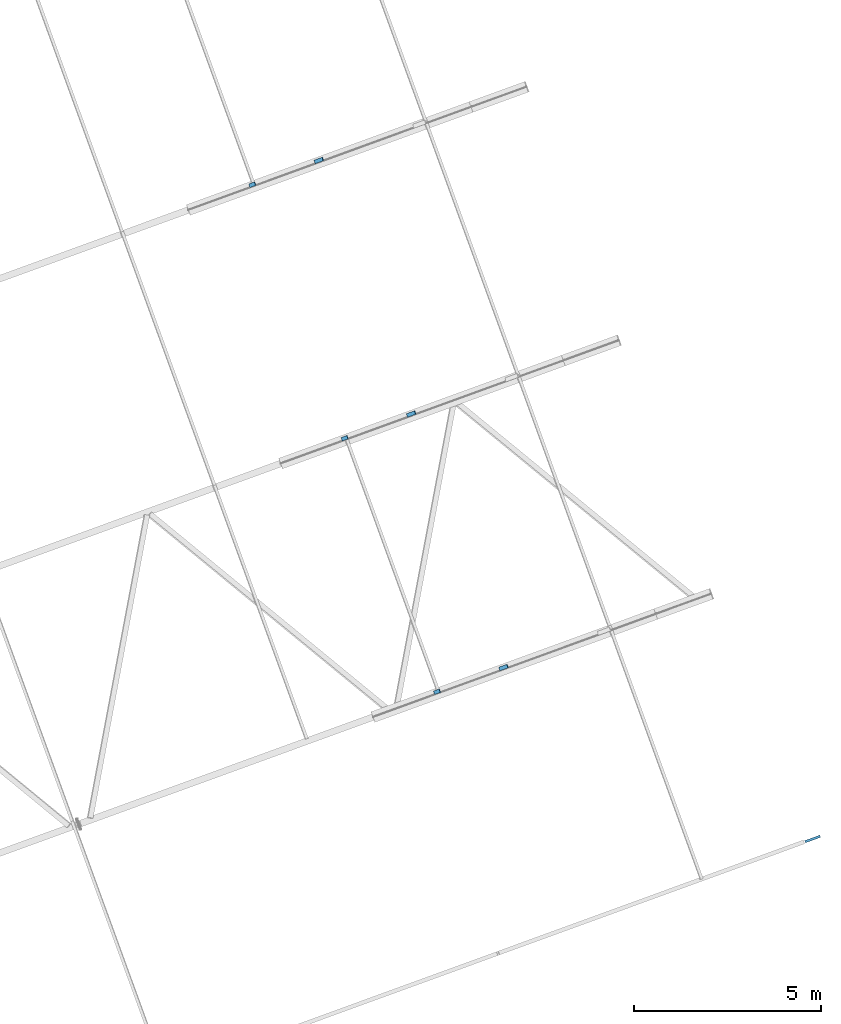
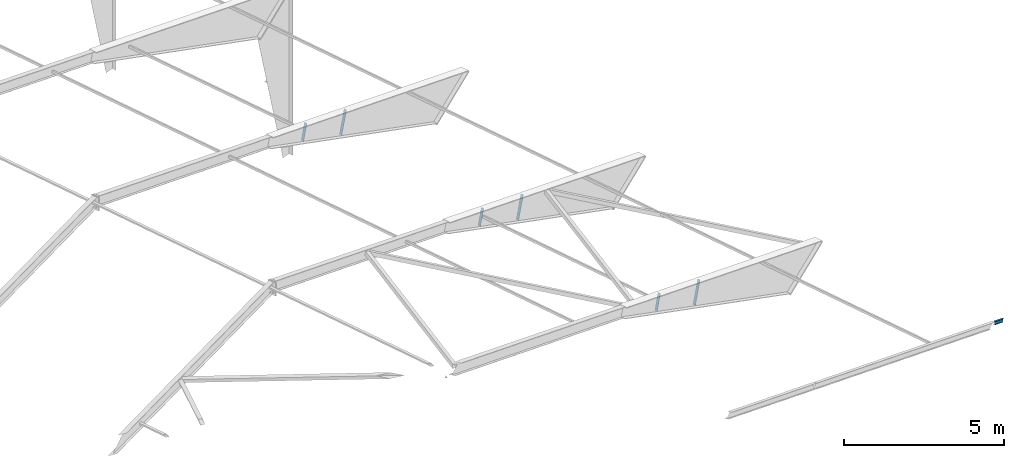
# One storey, part 6 of 17: 6 members, 1 beam, 1 opening, 7 elements without a shape of their own.
"""IFC4 building model written with IfcOpenShell, lengths in millimetres."""

from ifc_helpers import new_model, si_unit, direction, frame, origin_with_axes, place, context, subcontext, project, spatial, line, indexed_curve, outline, extrude, material, element, aggregate, save


model = new_model("IFC4")

# Units and contexts
model_context = context("Model", 3, precision=0.2, world=frame((203566.813, 116264.779, 0.0), z_axis=(0.0, 0.0, 1.0), x_axis=(1.0, 0.0, 0.0)), true_north=direction((-0.9396138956, -0.3422363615)))
body_context = subcontext(model_context, "Body", "Model", "MODEL_VIEW")
ifc_project = project(units=[si_unit("LENGTHUNIT", "METRE", prefix="MILLI"), si_unit("AREAUNIT", "SQUARE_METRE"), si_unit("VOLUMEUNIT", "CUBIC_METRE"), si_unit("MASSUNIT", "GRAM", prefix="KILO"), si_unit("TIMEUNIT", "SECOND"), si_unit("PLANEANGLEUNIT", "RADIAN"), si_unit("SOLIDANGLEUNIT", "STERADIAN"), si_unit("THERMODYNAMICTEMPERATUREUNIT", "DEGREE_CELSIUS"), si_unit("LUMINOUSINTENSITYUNIT", "LUMEN")], contexts=[model_context])

# Site, building, storey
site_placement = place(None, origin_with_axes())
site = spatial("IfcSite", under=ifc_project, at=site_placement, Name="Nobelprojektet", CompositionType="ELEMENT")
building_placement = place(site_placement, origin_with_axes())
building = spatial("IfcBuilding", under=site, at=building_placement, Name="Hall B", CompositionType="ELEMENT")
storey_placement = place(building_placement, frame((0.0, 0.0, 136000.0), z_axis=(0.0, 0.0, 1.0), x_axis=(1.0, 0.0, 0.0)))
storey = spatial("IfcBuildingStorey", under=building, at=storey_placement, Name="Plan_2", CompositionType="ELEMENT", Elevation=136000.0)

# Assembly, member
assembly_1_placement = place(storey_placement, frame((176146.30953, 129973.47061, 4361.1007), z_axis=(0.9075974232, 0.3305758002, -0.2588176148), x_axis=(0.2431885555, 0.0885769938, 0.9659262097)))
assembly_1 = element("IfcElementAssembly", 1, at=assembly_1_placement, inside=storey, Name="BEF. STOMME", PredefinedType="NOTDEFINED")
ifc_material = material(Name="S355J2", Category="STEEL")
member_1_placement = place(assembly_1_placement, origin_with_axes())
member_1 = element("IfcMember", 2, at=member_1_placement, material=ifc_material, Name="BEF. STOMME", PredefinedType="NOTDEFINED", context=body_context, shape_type="SolidModel", body=[
    extrude(outline(indexed_curve([(-7.5, -50.0), (7.5, -50.0), (7.5, 50.0), (-7.5, 50.0)], segments=[line(1, 2, 3, 4, 1)])), frame((0.0, 0.0, 0.0), z_axis=(-1.0, 0.0, 0.0), x_axis=(0.0, 0.0, 1.0)), (0.0, 0.0, -1.0), 883.23799),
])
aggregate(assembly_1, [member_1])

assembly_2_placement = place(storey_placement, frame((174405.30282, 129339.34069, 5134.76066), z_axis=(0.9075974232, 0.3305758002, -0.2588176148), x_axis=(0.2431885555, 0.0885769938, 0.9659262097)))
assembly_2 = element("IfcElementAssembly", 3, at=assembly_2_placement, inside=storey, Name="BEF. STOMME", PredefinedType="NOTDEFINED")
member_2_placement = place(assembly_2_placement, origin_with_axes())
member_2 = element("IfcMember", 4, at=member_2_placement, material=ifc_material, Name="BEF. STOMME", PredefinedType="NOTDEFINED", context=body_context, shape_type="SolidModel", body=[
    extrude(outline(indexed_curve([(-7.5, -50.0), (7.5, -50.0), (7.5, 50.0), (-7.5, 50.0)], segments=[line(1, 2, 3, 4, 1)])), frame((0.0, 0.0, 0.0), z_axis=(-1.0, 0.0, 0.0), x_axis=(0.0, 0.0, 1.0)), (0.0, 0.0, -1.0), 614.49783),
])
aggregate(assembly_2, [member_2])

assembly_3_placement = place(storey_placement, frame((173682.20225, 136738.68894, 4361.1007), z_axis=(0.9075974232, 0.3305758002, -0.2588176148), x_axis=(0.2431885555, 0.0885769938, 0.9659262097)))
assembly_3 = element("IfcElementAssembly", 5, at=assembly_3_placement, inside=storey, Name="BEF. STOMME", PredefinedType="NOTDEFINED")
member_3_placement = place(assembly_3_placement, origin_with_axes())
member_3 = element("IfcMember", 6, at=member_3_placement, material=ifc_material, Name="BEF. STOMME", PredefinedType="NOTDEFINED", context=body_context, shape_type="SolidModel", body=[
    extrude(outline(indexed_curve([(-7.5, -50.0), (7.5, -50.0), (7.5, 50.0), (-7.5, 50.0)], segments=[line(1, 2, 3, 4, 1)])), frame((0.0, 0.0, 0.0), z_axis=(-1.0, 0.0, 0.0), x_axis=(0.0, 0.0, 1.0)), (0.0, 0.0, -1.0), 883.23799),
])
aggregate(assembly_3, [member_3])

assembly_4_placement = place(storey_placement, frame((171941.19554, 136104.55901, 5134.76066), z_axis=(0.9075974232, 0.3305758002, -0.2588176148), x_axis=(0.2431885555, 0.0885769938, 0.9659262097)))
assembly_4 = element("IfcElementAssembly", 7, at=assembly_4_placement, inside=storey, Name="BEF. STOMME", PredefinedType="NOTDEFINED")
member_4_placement = place(assembly_4_placement, origin_with_axes())
member_4 = element("IfcMember", 8, at=member_4_placement, material=ifc_material, Name="BEF. STOMME", PredefinedType="NOTDEFINED", context=body_context, shape_type="SolidModel", body=[
    extrude(outline(indexed_curve([(-7.5, -50.0), (7.5, -50.0), (7.5, 50.0), (-7.5, 50.0)], segments=[line(1, 2, 3, 4, 1)])), frame((0.0, 0.0, 0.0), z_axis=(-1.0, 0.0, 0.0), x_axis=(0.0, 0.0, 1.0)), (0.0, 0.0, -1.0), 614.49783),
])
aggregate(assembly_4, [member_4])

assembly_5_placement = place(storey_placement, frame((171218.09496, 143503.90726, 4361.1007), z_axis=(0.9075974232, 0.3305758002, -0.2588176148), x_axis=(0.2431885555, 0.0885769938, 0.9659262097)))
assembly_5 = element("IfcElementAssembly", 9, at=assembly_5_placement, inside=storey, Name="BEF. STOMME", PredefinedType="NOTDEFINED")
member_5_placement = place(assembly_5_placement, origin_with_axes())
member_5 = element("IfcMember", 10, at=member_5_placement, material=ifc_material, Name="BEF. STOMME", PredefinedType="NOTDEFINED", context=body_context, shape_type="SolidModel", body=[
    extrude(outline(indexed_curve([(-7.5, -50.0), (7.5, -50.0), (7.5, 50.0), (-7.5, 50.0)], segments=[line(1, 2, 3, 4, 1)])), frame((0.0, 0.0, 0.0), z_axis=(-1.0, 0.0, 0.0), x_axis=(0.0, 0.0, 1.0)), (0.0, 0.0, -1.0), 883.23799),
])
aggregate(assembly_5, [member_5])

assembly_6_placement = place(storey_placement, frame((169477.08825, 142869.77734, 5134.76066), z_axis=(0.9075974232, 0.3305758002, -0.2588176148), x_axis=(0.2431885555, 0.0885769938, 0.9659262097)))
assembly_6 = element("IfcElementAssembly", 11, at=assembly_6_placement, inside=storey, Name="BEF. STOMME", PredefinedType="NOTDEFINED")
member_6_placement = place(assembly_6_placement, origin_with_axes())
member_6 = element("IfcMember", 12, at=member_6_placement, material=ifc_material, Name="BEF. STOMME", PredefinedType="NOTDEFINED", context=body_context, shape_type="SolidModel", body=[
    extrude(outline(indexed_curve([(-7.5, -50.0), (7.5, -50.0), (7.5, 50.0), (-7.5, 50.0)], segments=[line(1, 2, 3, 4, 1)])), frame((0.0, 0.0, 0.0), z_axis=(-1.0, 0.0, 0.0), x_axis=(0.0, 0.0, 1.0)), (0.0, 0.0, -1.0), 614.49783),
])
aggregate(assembly_6, [member_6])

# Assembly, beam, voiding feature
assembly_7_placement = place(storey_placement, frame((184686.50332, 125504.56816, 3507.5509), z_axis=(0.3422371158, -0.9396136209, 1.3e-09), x_axis=(-0.9075895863, -0.3305729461, 0.2588487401)))
assembly_7 = element("IfcElementAssembly", 13, at=assembly_7_placement, inside=storey, Name="BEF. STOMME", PredefinedType="NOTDEFINED")
beam_placement = place(assembly_7_placement, origin_with_axes())
beam = element("IfcBeam", 14, at=beam_placement, material=ifc_material, Name="BEF. STOMME", PredefinedType="NOTDEFINED", context=body_context, shape_type="SolidModel", body=[
    extrude(outline(indexed_curve([(-32.0, -60.0), (32.0, -60.0), (32.0, -53.7), (2.2, -53.7), (2.2, 53.7), (32.0, 53.7), (32.0, 60.0), (-32.0, 60.0), (-32.0, 53.7), (-2.2, 53.7), (-2.2, -53.7), (-32.0, -53.7)], segments=[line(1, 2, 3, 4, 5, 6, 7, 8, 9, 10, 11, 12, 1)])), frame((0.0, 0.0, 0.0), z_axis=(-1.0, 0.0, 0.0), x_axis=(0.0, 0.0, 1.0)), (0.0, 0.0, -1.0), 442.3458),
])
voiding_feature_placement = place(beam_placement, frame((410.18513, 60.0, 0.0), z_axis=(0.0, 0.0, -1.0), x_axis=(1.0, 0.0, 0.0)))
element("IfcVoidingFeature", 15, at=voiding_feature_placement, cuts=beam, Name="CUTPART", PredefinedType="HOLE", context=body_context, shape_type="SolidModel", body=[
    extrude(outline(indexed_curve([(0.0, 0.0), (32.16068, 0.0), (32.16068, 120.0)], segments=[line(1, 2, 3, 1)])), frame((0.0, 0.0, 34.5), z_axis=(0.0, 0.0, 1.0), x_axis=(1.0, 0.0, 0.0)), (0.0, 0.0, -1.0), 69.0),
])
aggregate(assembly_7, [beam])

save(model, "model.ifc")
